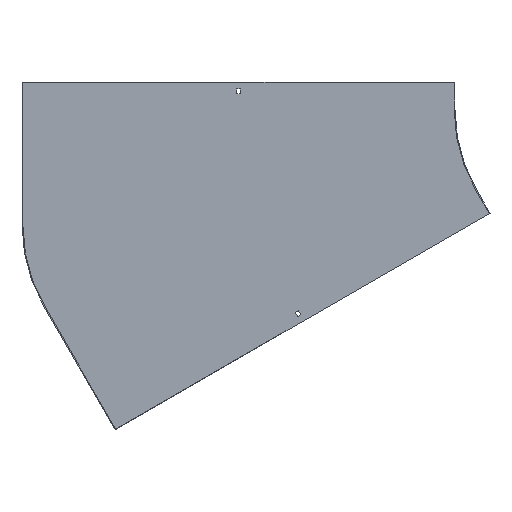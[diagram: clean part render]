
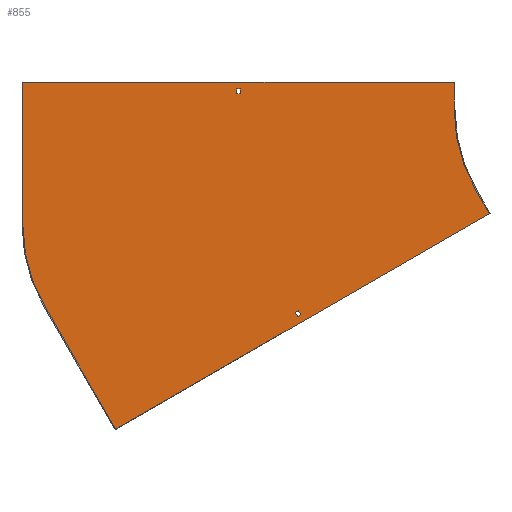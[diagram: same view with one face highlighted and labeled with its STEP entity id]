
A CAD part, front view. The second image highlights one B-rep face of the part: STEP entity #855.
In plain terms, the highlighted planar face has unit normal (0, -1, 0).
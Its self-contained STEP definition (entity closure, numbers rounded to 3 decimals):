
#7 = CARTESIAN_POINT ( 'NONE',  ( -234.808, -1.5, -193.301 ) ) ;
#13 = ORIENTED_EDGE ( 'NONE', *, *, #148, .F. ) ;
#22 = ORIENTED_EDGE ( 'NONE', *, *, #57, .F. ) ;
#25 = VERTEX_POINT ( 'NONE', #422 ) ;
#35 = AXIS2_PLACEMENT_3D ( 'NONE', #582, #59, #440 ) ;
#45 = CARTESIAN_POINT ( 'NONE',  ( -1100., -1.5, 50. ) ) ;
#52 = CARTESIAN_POINT ( 'NONE',  ( -696.75, -1.5, 0. ) ) ;
#53 = CIRCLE ( 'NONE', #775, 300. ) ;
#57 = EDGE_CURVE ( 'NONE', #191, #213, #250, .T. ) ;
#58 = CARTESIAN_POINT ( 'NONE',  ( -800., -1.5, -214.359 ) ) ;
#59 = DIRECTION ( 'NONE',  ( 0., -1., 0. ) ) ;
#61 = VERTEX_POINT ( 'NONE', #45 ) ;
#68 = CARTESIAN_POINT ( 'NONE',  ( 0., -1.5, 0. ) ) ;
#73 = DIRECTION ( 'NONE',  ( 0., 0., -1. ) ) ;
#80 = VERTEX_POINT ( 'NONE', #107 ) ;
#98 = VECTOR ( 'NONE', #205, 1000. ) ;
#104 = VECTOR ( 'NONE', #518, 1000. ) ;
#106 = FACE_BOUND ( 'NONE', #636, .T. ) ;
#107 = CARTESIAN_POINT ( 'NONE',  ( -300., -1.5, 50. ) ) ;
#111 = LINE ( 'NONE', #52, #287 ) ;
#113 = EDGE_CURVE ( 'NONE', #222, #25, #316, .T. ) ;
#117 = VECTOR ( 'NONE', #664, 1000. ) ;
#125 = CARTESIAN_POINT ( 'NONE',  ( -300., -1.5, 50. ) ) ;
#127 = VECTOR ( 'NONE', #788, 1000. ) ;
#139 = EDGE_CURVE ( 'NONE', #630, #591, #660, .T. ) ;
#141 = VERTEX_POINT ( 'NONE', #516 ) ;
#144 = VERTEX_POINT ( 'NONE', #710 ) ;
#148 = EDGE_CURVE ( 'NONE', #141, #191, #598, .T. ) ;
#151 = ORIENTED_EDGE ( 'NONE', *, *, #319, .F. ) ;
#155 = CARTESIAN_POINT ( 'NONE',  ( -703.25, -1.5, 0. ) ) ;
#166 = VECTOR ( 'NONE', #255, 1000. ) ;
#168 = LINE ( 'NONE', #824, #553 ) ;
#171 = PLANE ( 'NONE',  #35 ) ;
#179 = CARTESIAN_POINT ( 'NONE',  ( -1100., -1.5, -214.359 ) ) ;
#180 = VECTOR ( 'NONE', #858, 1000. ) ;
#185 = LINE ( 'NONE', #242, #329 ) ;
#191 = VERTEX_POINT ( 'NONE', #368 ) ;
#198 = LINE ( 'NONE', #604, #708 ) ;
#205 = DIRECTION ( 'NONE',  ( -0.5, 0., 0.866 ) ) ;
#208 = LINE ( 'NONE', #403, #117 ) ;
#213 = VERTEX_POINT ( 'NONE', #289 ) ;
#214 = DIRECTION ( 'NONE',  ( 0., -1., 0. ) ) ;
#222 = VERTEX_POINT ( 'NONE', #447 ) ;
#225 = DIRECTION ( 'NONE',  ( -0.866, 0., -0.5 ) ) ;
#226 = ORIENTED_EDGE ( 'NONE', *, *, #740, .F. ) ;
#235 = EDGE_CURVE ( 'NONE', #61, #80, #185, .T. ) ;
#236 = LINE ( 'NONE', #641, #304 ) ;
#242 = CARTESIAN_POINT ( 'NONE',  ( -1101.5, -1.5, 50. ) ) ;
#243 = FACE_OUTER_BOUND ( 'NONE', #652, .T. ) ;
#245 = VERTEX_POINT ( 'NONE', #515 ) ;
#250 = LINE ( 'NONE', #382, #127 ) ;
#255 = DIRECTION ( 'NONE',  ( 1., 0., 0. ) ) ;
#256 = EDGE_CURVE ( 'NONE', #266, #61, #774, .T. ) ;
#261 = CARTESIAN_POINT ( 'NONE',  ( -696.75, -1.5, 29. ) ) ;
#263 = ORIENTED_EDGE ( 'NONE', *, *, #449, .F. ) ;
#264 = DIRECTION ( 'NONE',  ( 0., 0., -1. ) ) ;
#265 = VECTOR ( 'NONE', #562, 1000. ) ;
#266 = VERTEX_POINT ( 'NONE', #786 ) ;
#275 = EDGE_CURVE ( 'NONE', #25, #630, #111, .T. ) ;
#285 = ORIENTED_EDGE ( 'NONE', *, *, #809, .F. ) ;
#286 = ORIENTED_EDGE ( 'NONE', *, *, #524, .T. ) ;
#287 = VECTOR ( 'NONE', #312, 1000. ) ;
#289 = CARTESIAN_POINT ( 'NONE',  ( -584.403, -1.5, -381.284 ) ) ;
#296 = CARTESIAN_POINT ( 'NONE',  ( -259.808, -1.5, -150. ) ) ;
#300 = EDGE_CURVE ( 'NONE', #377, #661, #53, .T. ) ;
#302 = DIRECTION ( 'NONE',  ( 0., 0., -1. ) ) ;
#304 = VECTOR ( 'NONE', #225, 1000. ) ;
#312 = DIRECTION ( 'NONE',  ( 0., 0., -1. ) ) ;
#313 = VECTOR ( 'NONE', #646, 1000. ) ;
#314 = EDGE_CURVE ( 'NONE', #213, #144, #208, .T. ) ;
#316 = LINE ( 'NONE', #458, #166 ) ;
#319 = EDGE_CURVE ( 'NONE', #661, #609, #198, .T. ) ;
#326 = ORIENTED_EDGE ( 'NONE', *, *, #314, .F. ) ;
#329 = VECTOR ( 'NONE', #532, 1000. ) ;
#336 = DIRECTION ( 'NONE',  ( 0.5, 0., -0.866 ) ) ;
#368 = CARTESIAN_POINT ( 'NONE',  ( -590.032, -1.5, -384.534 ) ) ;
#374 = CARTESIAN_POINT ( 'NONE',  ( 0., -1.5, 29. ) ) ;
#377 = VERTEX_POINT ( 'NONE', #443 ) ;
#382 = CARTESIAN_POINT ( 'NONE',  ( 19., -1.5, -32.909 ) ) ;
#389 = EDGE_CURVE ( 'NONE', #609, #245, #168, .T. ) ;
#392 = VERTEX_POINT ( 'NONE', #427 ) ;
#403 = CARTESIAN_POINT ( 'NONE',  ( -603.403, -1.5, -348.375 ) ) ;
#414 = ORIENTED_EDGE ( 'NONE', *, *, #300, .F. ) ;
#422 = CARTESIAN_POINT ( 'NONE',  ( -696.75, -1.5, 38. ) ) ;
#427 = CARTESIAN_POINT ( 'NONE',  ( -1059.808, -1.5, -364.359 ) ) ;
#440 = DIRECTION ( 'NONE',  ( 0., 0., -1. ) ) ;
#443 = CARTESIAN_POINT ( 'NONE',  ( -300., -1.5, 0. ) ) ;
#447 = CARTESIAN_POINT ( 'NONE',  ( -703.25, -1.5, 38. ) ) ;
#449 = EDGE_CURVE ( 'NONE', #245, #392, #626, .T. ) ;
#457 = FACE_BOUND ( 'NONE', #851, .T. ) ;
#458 = CARTESIAN_POINT ( 'NONE',  ( 0., -1.5, 38. ) ) ;
#500 = ORIENTED_EDGE ( 'NONE', *, *, #576, .F. ) ;
#515 = CARTESIAN_POINT ( 'NONE',  ( -927.628, -1.5, -593.301 ) ) ;
#516 = CARTESIAN_POINT ( 'NONE',  ( -594.532, -1.5, -376.74 ) ) ;
#518 = DIRECTION ( 'NONE',  ( 0., 0., 1. ) ) ;
#519 = DIRECTION ( 'NONE',  ( 0., 1., 0. ) ) ;
#524 = EDGE_CURVE ( 'NONE', #591, #222, #797, .T. ) ;
#532 = DIRECTION ( 'NONE',  ( 1., 0., 0. ) ) ;
#546 = ORIENTED_EDGE ( 'NONE', *, *, #275, .T. ) ;
#553 = VECTOR ( 'NONE', #637, 1000. ) ;
#554 = ORIENTED_EDGE ( 'NONE', *, *, #389, .F. ) ;
#560 = ORIENTED_EDGE ( 'NONE', *, *, #139, .T. ) ;
#562 = DIRECTION ( 'NONE',  ( 0., 0., 1. ) ) ;
#576 = EDGE_CURVE ( 'NONE', #80, #377, #729, .T. ) ;
#582 = CARTESIAN_POINT ( 'NONE',  ( 0., -1.5, 0. ) ) ;
#584 = AXIS2_PLACEMENT_3D ( 'NONE', #58, #519, #302 ) ;
#591 = VERTEX_POINT ( 'NONE', #796 ) ;
#596 = VECTOR ( 'NONE', #264, 1000. ) ;
#598 = LINE ( 'NONE', #776, #180 ) ;
#604 = CARTESIAN_POINT ( 'NONE',  ( -259.808, -1.5, -150. ) ) ;
#609 = VERTEX_POINT ( 'NONE', #7 ) ;
#615 = CARTESIAN_POINT ( 'NONE',  ( -927.628, -1.5, -593.301 ) ) ;
#626 = LINE ( 'NONE', #615, #98 ) ;
#630 = VERTEX_POINT ( 'NONE', #261 ) ;
#636 = EDGE_LOOP ( 'NONE', ( #326, #22, #13, #285 ) ) ;
#637 = DIRECTION ( 'NONE',  ( -0.866, 0., -0.5 ) ) ;
#641 = CARTESIAN_POINT ( 'NONE',  ( 14.5, -1.5, -25.115 ) ) ;
#646 = DIRECTION ( 'NONE',  ( -1., 0., 0. ) ) ;
#652 = EDGE_LOOP ( 'NONE', ( #785, #734, #226, #263, #554, #151, #414, #500 ) ) ;
#660 = LINE ( 'NONE', #374, #313 ) ;
#661 = VERTEX_POINT ( 'NONE', #296 ) ;
#664 = DIRECTION ( 'NONE',  ( -0.5, 0., 0.866 ) ) ;
#708 = VECTOR ( 'NONE', #336, 1000. ) ;
#710 = CARTESIAN_POINT ( 'NONE',  ( -588.903, -1.5, -373.49 ) ) ;
#729 = LINE ( 'NONE', #125, #596 ) ;
#734 = ORIENTED_EDGE ( 'NONE', *, *, #256, .F. ) ;
#740 = EDGE_CURVE ( 'NONE', #392, #266, #770, .T. ) ;
#770 = CIRCLE ( 'NONE', #584, 300. ) ;
#774 = LINE ( 'NONE', #179, #104 ) ;
#775 = AXIS2_PLACEMENT_3D ( 'NONE', #68, #214, #73 ) ;
#776 = CARTESIAN_POINT ( 'NONE',  ( -609.032, -1.5, -351.625 ) ) ;
#785 = ORIENTED_EDGE ( 'NONE', *, *, #235, .F. ) ;
#786 = CARTESIAN_POINT ( 'NONE',  ( -1100., -1.5, -214.359 ) ) ;
#788 = DIRECTION ( 'NONE',  ( 0.866, 0., 0.5 ) ) ;
#796 = CARTESIAN_POINT ( 'NONE',  ( -703.25, -1.5, 29. ) ) ;
#797 = LINE ( 'NONE', #155, #265 ) ;
#809 = EDGE_CURVE ( 'NONE', #144, #141, #236, .T. ) ;
#820 = ORIENTED_EDGE ( 'NONE', *, *, #113, .T. ) ;
#824 = CARTESIAN_POINT ( 'NONE',  ( -233.509, -1.5, -192.551 ) ) ;
#851 = EDGE_LOOP ( 'NONE', ( #820, #546, #560, #286 ) ) ;
#855 = ADVANCED_FACE ( 'NONE', ( #106, #243, #457 ), #171, .T. ) ;
#858 = DIRECTION ( 'NONE',  ( 0.5, 0., -0.866 ) ) ;
